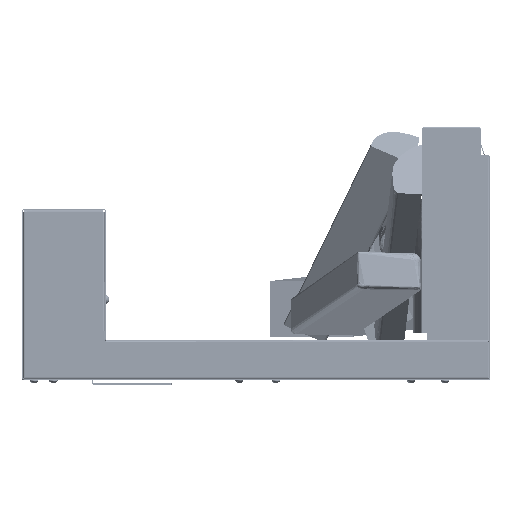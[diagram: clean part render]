
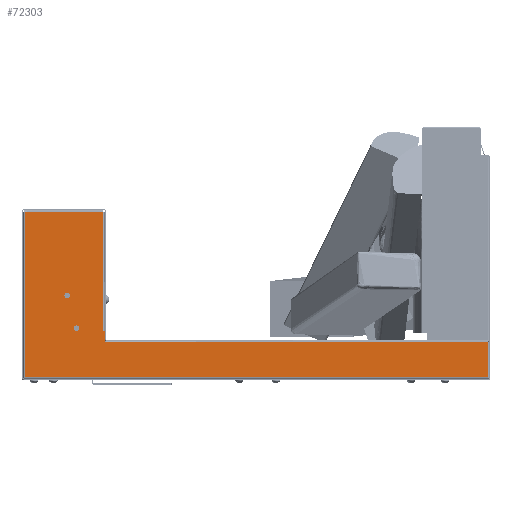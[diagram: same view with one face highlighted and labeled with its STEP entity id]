
A CAD part, left-side view. The second image highlights one B-rep face of the part: STEP entity #72303.
In plain terms, the highlighted planar face has unit normal (-1, 0, 0) as drawn and (1, 0, 0) by its records, which use the part's own axes.
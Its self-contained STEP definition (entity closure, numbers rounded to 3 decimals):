
#1657 = VERTEX_POINT ( 'NONE', #85712 ) ;
#2349 = VECTOR ( 'NONE', #157183, 1000. ) ;
#5462 = CARTESIAN_POINT ( 'NONE',  ( 0., 453.3, -50. ) ) ;
#7394 = EDGE_CURVE ( 'NONE', #231838, #198256, #61729, .T. ) ;
#11173 = EDGE_LOOP ( 'NONE', ( #183415, #51372 ) ) ;
#13001 = ORIENTED_EDGE ( 'NONE', *, *, #209429, .T. ) ;
#15395 = DIRECTION ( 'NONE',  ( 0., 0., 1. ) ) ;
#23063 = CIRCLE ( 'NONE', #240706, 2.5 ) ;
#24760 = AXIS2_PLACEMENT_3D ( 'NONE', #137496, #265301, #134707 ) ;
#25356 = DIRECTION ( 'NONE',  ( 0., 1., 0. ) ) ;
#26215 = VECTOR ( 'NONE', #135606, 1000. ) ;
#30313 = CARTESIAN_POINT ( 'NONE',  ( 0., 445.8, -15. ) ) ;
#42187 = EDGE_CURVE ( 'NONE', #175802, #126345, #110890, .T. ) ;
#43538 = DIRECTION ( 'NONE',  ( 0., 0., -1. ) ) ;
#44243 = CIRCLE ( 'NONE', #62257, 2.5 ) ;
#45795 = VERTEX_POINT ( 'NONE', #199730 ) ;
#48014 = VERTEX_POINT ( 'NONE', #220853 ) ;
#51140 = VERTEX_POINT ( 'NONE', #100957 ) ;
#51241 = CARTESIAN_POINT ( 'NONE',  ( 0., 0., 0. ) ) ;
#51372 = ORIENTED_EDGE ( 'NONE', *, *, #229896, .F. ) ;
#55261 = FACE_BOUND ( 'NONE', #278459, .T. ) ;
#55502 = EDGE_CURVE ( 'NONE', #271810, #182519, #68248, .T. ) ;
#55566 = LINE ( 'NONE', #147740, #106762 ) ;
#61729 = LINE ( 'NONE', #148342, #97989 ) ;
#62257 = AXIS2_PLACEMENT_3D ( 'NONE', #5462, #219811, #25356 ) ;
#62651 = ORIENTED_EDGE ( 'NONE', *, *, #193381, .F. ) ;
#64633 = CARTESIAN_POINT ( 'NONE',  ( 0., 450.8, -50. ) ) ;
#65011 = EDGE_CURVE ( 'NONE', #182519, #1657, #259324, .T. ) ;
#66364 = VECTOR ( 'NONE', #43538, 1000. ) ;
#68248 = LINE ( 'NONE', #90959, #109624 ) ;
#72303 = ADVANCED_FACE ( 'NONE', ( #55261, #161771, #123320 ), #271074, .F. ) ;
#79356 = CARTESIAN_POINT ( 'NONE',  ( 0., 0., 0. ) ) ;
#79656 = CIRCLE ( 'NONE', #188419, 2.5 ) ;
#80306 = LINE ( 'NONE', #101573, #208108 ) ;
#80897 = VECTOR ( 'NONE', #235965, 1000. ) ;
#85050 = EDGE_CURVE ( 'NONE', #196295, #51140, #23063, .T. ) ;
#85712 = CARTESIAN_POINT ( 'NONE',  ( 0., 413., -11.5 ) ) ;
#87011 = AXIS2_PLACEMENT_3D ( 'NONE', #79356, #275228, #15395 ) ;
#87338 = EDGE_CURVE ( 'NONE', #231838, #230000, #80306, .T. ) ;
#90959 = CARTESIAN_POINT ( 'NONE',  ( 0., 413., 0. ) ) ;
#93291 = CARTESIAN_POINT ( 'NONE',  ( 0., 499.293, 38. ) ) ;
#97989 = VECTOR ( 'NONE', #101530, 1000. ) ;
#100957 = CARTESIAN_POINT ( 'NONE',  ( 0., 455.8, -50. ) ) ;
#101530 = DIRECTION ( 'NONE',  ( 0., 1., 0. ) ) ;
#101573 = CARTESIAN_POINT ( 'NONE',  ( 0., 415., -12. ) ) ;
#101790 = EDGE_CURVE ( 'NONE', #157161, #165149, #202630, .T. ) ;
#103155 = DIRECTION ( 'NONE',  ( 0., 0., 1. ) ) ;
#106762 = VECTOR ( 'NONE', #272747, 1000. ) ;
#109624 = VECTOR ( 'NONE', #237180, 1000. ) ;
#110890 = CIRCLE ( 'NONE', #24760, 2.5 ) ;
#115694 = CARTESIAN_POINT ( 'NONE',  ( 0., 413., 0. ) ) ;
#118092 = ORIENTED_EDGE ( 'NONE', *, *, #7394, .F. ) ;
#120210 = ORIENTED_EDGE ( 'NONE', *, *, #235566, .T. ) ;
#123016 = CARTESIAN_POINT ( 'NONE',  ( 0., 499., -140.293 ) ) ;
#123320 = FACE_OUTER_BOUND ( 'NONE', #146638, .T. ) ;
#123522 = CARTESIAN_POINT ( 'NONE',  ( 0., 0., 38. ) ) ;
#126345 = VERTEX_POINT ( 'NONE', #136613 ) ;
#127235 = ORIENTED_EDGE ( 'NONE', *, *, #85050, .F. ) ;
#131985 = VECTOR ( 'NONE', #192445, 1000. ) ;
#134284 = DIRECTION ( 'NONE',  ( 1., 0., 0. ) ) ;
#134707 = DIRECTION ( 'NONE',  ( 0., 1., 0. ) ) ;
#135606 = DIRECTION ( 'NONE',  ( 0., 1., 0. ) ) ;
#136344 = ORIENTED_EDGE ( 'NONE', *, *, #251791, .T. ) ;
#136613 = CARTESIAN_POINT ( 'NONE',  ( 0., 440.8, -15. ) ) ;
#137496 = CARTESIAN_POINT ( 'NONE',  ( 0., 443.3, -15. ) ) ;
#141778 = CARTESIAN_POINT ( 'NONE',  ( 0., 411.5, 0. ) ) ;
#146138 = ORIENTED_EDGE ( 'NONE', *, *, #263961, .T. ) ;
#146261 = VERTEX_POINT ( 'NONE', #123522 ) ;
#146638 = EDGE_LOOP ( 'NONE', ( #146138, #120210, #136344, #212980, #273401, #153930, #62651, #118092, #236617, #13001, #276045 ) ) ;
#147740 = CARTESIAN_POINT ( 'NONE',  ( 0., 0., -11.5 ) ) ;
#147979 = LINE ( 'NONE', #230368, #80897 ) ;
#148342 = CARTESIAN_POINT ( 'NONE',  ( 0., 0., -12. ) ) ;
#148509 = CARTESIAN_POINT ( 'NONE',  ( 0., 499., 38. ) ) ;
#151421 = CARTESIAN_POINT ( 'NONE',  ( 0., 413., -142. ) ) ;
#153930 = ORIENTED_EDGE ( 'NONE', *, *, #264553, .F. ) ;
#154180 = DIRECTION ( 'NONE',  ( 0., 1., 0. ) ) ;
#157161 = VERTEX_POINT ( 'NONE', #220843 ) ;
#157183 = DIRECTION ( 'NONE',  ( 0., -1., 0. ) ) ;
#159503 = CARTESIAN_POINT ( 'NONE',  ( 0., 415., -12. ) ) ;
#161771 = FACE_BOUND ( 'NONE', #11173, .T. ) ;
#164392 = VECTOR ( 'NONE', #103155, 1000. ) ;
#164446 = ORIENTED_EDGE ( 'NONE', *, *, #250037, .F. ) ;
#165149 = VERTEX_POINT ( 'NONE', #148509 ) ;
#168952 = DIRECTION ( 'NONE',  ( 1., 0., 0. ) ) ;
#175802 = VERTEX_POINT ( 'NONE', #30313 ) ;
#179058 = CARTESIAN_POINT ( 'NONE',  ( 0., 413., 0. ) ) ;
#180440 = LINE ( 'NONE', #51241, #199130 ) ;
#182519 = VERTEX_POINT ( 'NONE', #179058 ) ;
#183415 = ORIENTED_EDGE ( 'NONE', *, *, #42187, .F. ) ;
#188241 = CARTESIAN_POINT ( 'NONE',  ( 0., 415.5, 0. ) ) ;
#188419 = AXIS2_PLACEMENT_3D ( 'NONE', #263484, #134284, #154180 ) ;
#191638 = DIRECTION ( 'NONE',  ( 0., 1., 0. ) ) ;
#192445 = DIRECTION ( 'NONE',  ( 0., 0., 1. ) ) ;
#193381 = EDGE_CURVE ( 'NONE', #198256, #48014, #212354, .T. ) ;
#196295 = VERTEX_POINT ( 'NONE', #64633 ) ;
#196888 = CARTESIAN_POINT ( 'NONE',  ( 0., 415.5, -12. ) ) ;
#198256 = VERTEX_POINT ( 'NONE', #196888 ) ;
#199130 = VECTOR ( 'NONE', #201700, 1000. ) ;
#199730 = CARTESIAN_POINT ( 'NONE',  ( 0., 0., 0. ) ) ;
#201700 = DIRECTION ( 'NONE',  ( 0., 0., -1. ) ) ;
#202630 = LINE ( 'NONE', #123016, #164392 ) ;
#208108 = VECTOR ( 'NONE', #212239, 1000. ) ;
#209429 = EDGE_CURVE ( 'NONE', #230000, #157161, #147979, .T. ) ;
#212239 = DIRECTION ( 'NONE',  ( 0., 0., -1. ) ) ;
#212354 = LINE ( 'NONE', #188241, #131985 ) ;
#212980 = ORIENTED_EDGE ( 'NONE', *, *, #55502, .T. ) ;
#219811 = DIRECTION ( 'NONE',  ( 1., 0., 0. ) ) ;
#220843 = CARTESIAN_POINT ( 'NONE',  ( 0., 499., -140. ) ) ;
#220853 = CARTESIAN_POINT ( 'NONE',  ( 0., 415.5, -11.5 ) ) ;
#226472 = CARTESIAN_POINT ( 'NONE',  ( 0., 415., -140. ) ) ;
#229896 = EDGE_CURVE ( 'NONE', #126345, #175802, #79656, .T. ) ;
#230000 = VERTEX_POINT ( 'NONE', #226472 ) ;
#230368 = CARTESIAN_POINT ( 'NONE',  ( 0., 414.707, -140. ) ) ;
#231838 = VERTEX_POINT ( 'NONE', #159503 ) ;
#235566 = EDGE_CURVE ( 'NONE', #146261, #45795, #180440, .T. ) ;
#235965 = DIRECTION ( 'NONE',  ( 0., 1., 0. ) ) ;
#236617 = ORIENTED_EDGE ( 'NONE', *, *, #87338, .T. ) ;
#237180 = DIRECTION ( 'NONE',  ( 0., 1., 0. ) ) ;
#240706 = AXIS2_PLACEMENT_3D ( 'NONE', #276859, #168952, #191638 ) ;
#242359 = LINE ( 'NONE', #93291, #2349 ) ;
#250037 = EDGE_CURVE ( 'NONE', #51140, #196295, #44243, .T. ) ;
#251791 = EDGE_CURVE ( 'NONE', #45795, #271810, #268984, .T. ) ;
#259324 = LINE ( 'NONE', #151421, #66364 ) ;
#263484 = CARTESIAN_POINT ( 'NONE',  ( 0., 443.3, -15. ) ) ;
#263961 = EDGE_CURVE ( 'NONE', #165149, #146261, #242359, .T. ) ;
#264553 = EDGE_CURVE ( 'NONE', #48014, #1657, #55566, .T. ) ;
#265301 = DIRECTION ( 'NONE',  ( 1., 0., 0. ) ) ;
#268984 = LINE ( 'NONE', #115694, #26215 ) ;
#271074 = PLANE ( 'NONE',  #87011 ) ;
#271810 = VERTEX_POINT ( 'NONE', #141778 ) ;
#272747 = DIRECTION ( 'NONE',  ( 0., -1., 0. ) ) ;
#273401 = ORIENTED_EDGE ( 'NONE', *, *, #65011, .T. ) ;
#275228 = DIRECTION ( 'NONE',  ( -1., 0., 0. ) ) ;
#276045 = ORIENTED_EDGE ( 'NONE', *, *, #101790, .T. ) ;
#276859 = CARTESIAN_POINT ( 'NONE',  ( 0., 453.3, -50. ) ) ;
#278459 = EDGE_LOOP ( 'NONE', ( #164446, #127235 ) ) ;
